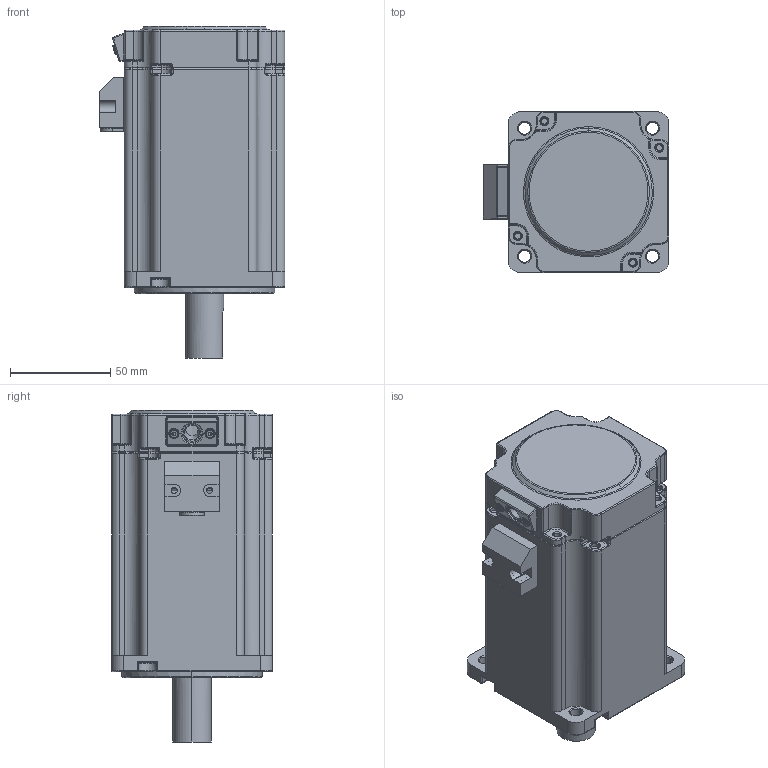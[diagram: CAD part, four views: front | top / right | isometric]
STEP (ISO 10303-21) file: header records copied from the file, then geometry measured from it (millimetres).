
FILE_DESCRIPTION(('CATIA V5 STEP Exchange'),'2;1');
FILE_NAME('F:\公司\松下系列\80-5对极\3D\磁编3D\1000W\80A-03230-ZZP.stp','2020-10-20T01:51:37+00:00',('none'),('none'),'CATIA Version 5 Release 20 GA (IN-10)','CATIA V5 STEP AP203','none');
FILE_SCHEMA(('CONFIG_CONTROL_DESIGN'));
Products named in the file (1): 80A-03230-ZZP
Bounding box: 92.5 x 80 x 165.2 mm (x, y, z)
Volume: 237050.7 mm3; surface area: 135093.2 mm2
Topology: 2 solids, 15 shells, 1639 faces, 3880 edges, 2252 vertices
Faces by surface type: cylinder 591, torus 370, plane 307, bspline 198, cone 92, sphere 57, extrusion 16, revolution 8
Entity records: 65682 total; most frequent: CARTESIAN_POINT 31794, ORIENTED_EDGE 7592, DIRECTION 5509, EDGE_CURVE 3796, AXIS2_PLACEMENT_3D 3070, VERTEX_POINT 2252, CIRCLE 1824, EDGE_LOOP 1736
